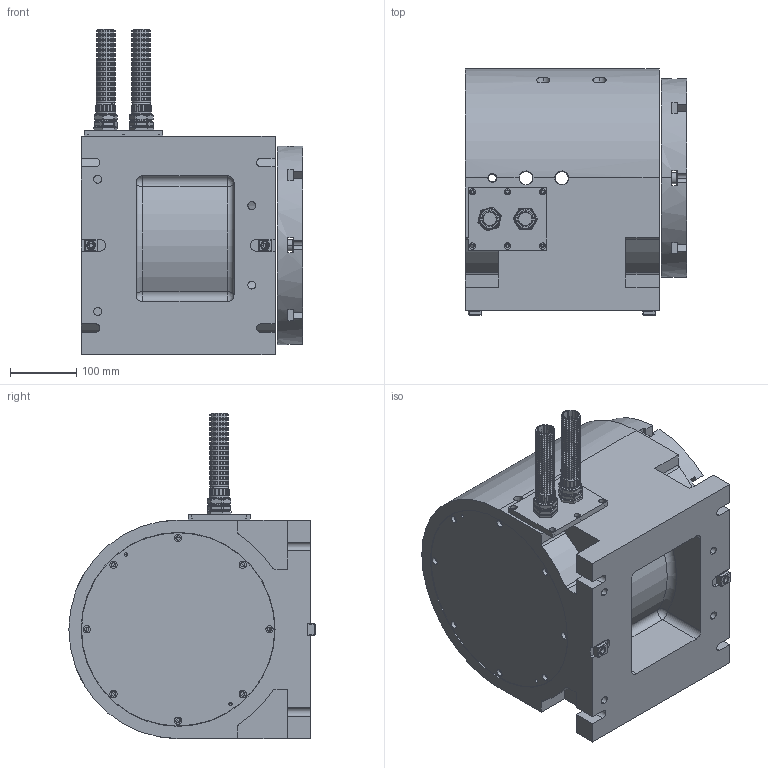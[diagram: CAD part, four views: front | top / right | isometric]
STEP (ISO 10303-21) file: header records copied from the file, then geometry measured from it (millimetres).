
FILE_DESCRIPTION (( 'STEP AP203' ), '1' );
FILE_NAME ('15121100 DD306-11.STEP', '2020-12-05T05:39:03', ( '' ), ( '' ), 'SwSTEP 2.0', 'SolidWorks 2019', '' );
FILE_SCHEMA (( 'CONFIG_CONTROL_DESIGN' ));
Length unit declared in the file: millimetre
Products named in the file (1): 15121100 DD306-11
Bounding box: 335 x 372 x 491.21 mm (x, y, z)
Surface area: 897115.7 mm2 (no closed solid volume)
Topology: 0 solids, 21 shells, 1112 faces, 3085 edges, 2027 vertices
Faces by surface type: cylinder 538, plane 465, cone 42, torus 34, bspline 29, sphere 4
Entity records: 37703 total; most frequent: CARTESIAN_POINT 8655, DIRECTION 6557, ORIENTED_EDGE 5446, EDGE_CURVE 3048, AXIS2_PLACEMENT_3D 2597, VERTEX_POINT 2023, CIRCLE 1513, LINE 1363
